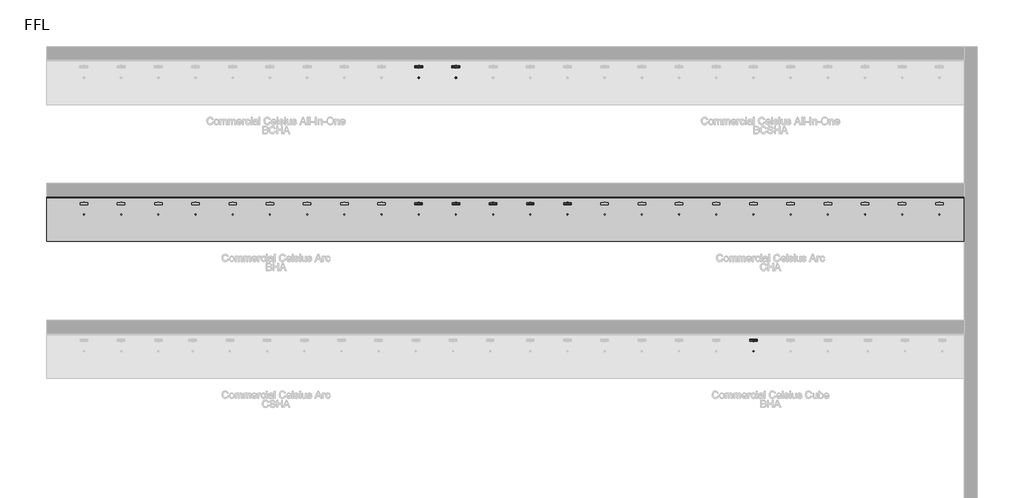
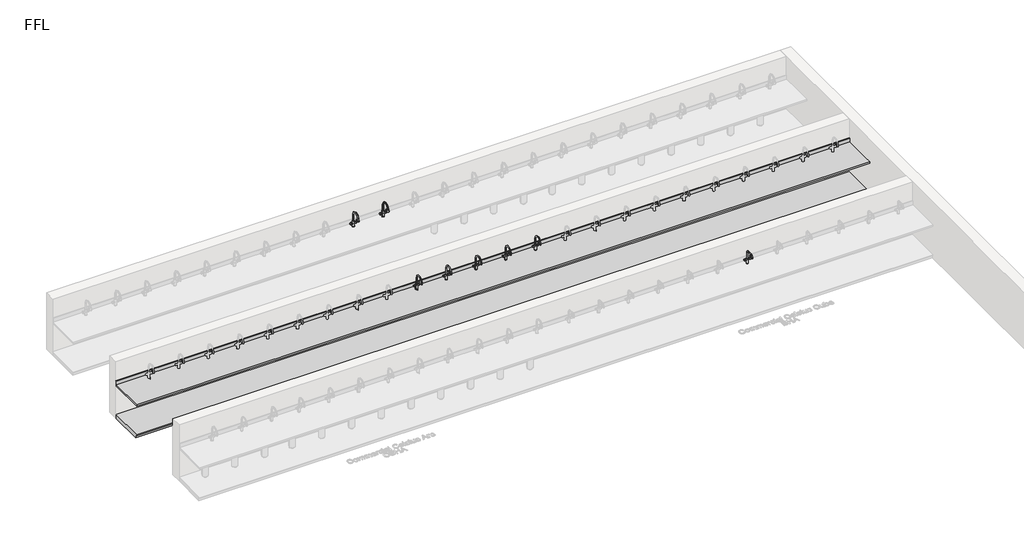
# One storey, part 3 of 10: 15 flow terminals, 2 furniture elements.
"""IFC4 building model written with IfcOpenShell, lengths in millimetres."""

from ifc_helpers import new_model, si_unit, frame, origin, place, context, project, spatial, polyline, circle_curve, transform, mapped, element, save
from ifc_brep_helpers import plane_surface, revolved_surface, advanced_brep
from components import flow_terminal_1fd3c137, bright_chrome_d5fbbf34, bright_chrome_ca6152f3, bright_chrome_d1e259f6, generic_plinth_900mm_f287d53f

model = new_model("IFC4")

# Units and contexts
model_context = context("Model", 3, world=origin())
ifc_project = project(units=[si_unit("LENGTHUNIT", "METRE", prefix="MILLI")], contexts=[model_context])

# Site, building, storey
site = spatial("IfcSite", under=ifc_project)
building = spatial("IfcBuilding", under=site)
storey = spatial("IfcBuildingStorey", under=building, Name="FFL", Elevation=0.0)

# Flow terminals
placement = place(None, origin())
flow_terminal_shape = flow_terminal_1fd3c137(model_context)
element("IfcFlowTerminal", 1, ObjectType="z_PlumFixt_Zenith_Booster : Booster", at=placement, inside=storey, context=model_context, shape_type="MappedRepresentation", body=[
    mapped(flow_terminal_shape, transform((533.2647071, 7900.2393304, 498.0), x_axis=(1.0, 0.0, 0.0), y_axis=(0.0, 1.0, 0.0), z_axis=(0.0, 0.0, 1.0))),
])
element("IfcFlowTerminal", 2, ObjectType="z_PlumFixt_Zenith_Booster : Booster", at=placement, inside=storey, context=model_context, shape_type="MappedRepresentation", body=[
    mapped(flow_terminal_shape, transform((1283.2647071, 7900.2393304, 498.0), x_axis=(1.0, 0.0, 0.0), y_axis=(0.0, 1.0, 0.0), z_axis=(0.0, 0.0, 1.0))),
])
element("IfcFlowTerminal", 3, ObjectType="z_PlumFixt_Zenith_Booster : Booster", at=placement, inside=storey, context=model_context, shape_type="MappedRepresentation", body=[
    mapped(flow_terminal_shape, transform((3532.7647071, 5140.2393304, 498.0), x_axis=(1.0, 0.0, 0.0), y_axis=(0.0, 1.0, 0.0), z_axis=(0.0, 0.0, 1.0))),
])
element("IfcFlowTerminal", 4, ObjectType="z_PlumFixt_Zenith_Booster : Booster", at=placement, inside=storey, context=model_context, shape_type="MappedRepresentation", body=[
    mapped(flow_terminal_shape, transform((2782.7647071, 5140.2393304, 498.0), x_axis=(1.0, 0.0, 0.0), y_axis=(0.0, 1.0, 0.0), z_axis=(0.0, 0.0, 1.0))),
])
element("IfcFlowTerminal", 5, ObjectType="z_PlumFixt_Zenith_Booster : Booster", at=placement, inside=storey, context=model_context, shape_type="MappedRepresentation", body=[
    mapped(flow_terminal_shape, transform((533.2647071, 5140.2393304, 498.0), x_axis=(1.0, 0.0, 0.0), y_axis=(0.0, 1.0, 0.0), z_axis=(0.0, 0.0, 1.0))),
])
element("IfcFlowTerminal", 6, ObjectType="z_PlumFixt_Zenith_Booster : Booster", at=placement, inside=storey, context=model_context, shape_type="MappedRepresentation", body=[
    mapped(flow_terminal_shape, transform((1283.2647071, 5140.2393304, 498.0), x_axis=(1.0, 0.0, 0.0), y_axis=(0.0, 1.0, 0.0), z_axis=(0.0, 0.0, 1.0))),
])
element("IfcFlowTerminal", 7, ObjectType="z_PlumFixt_Zenith_Booster : Booster", at=placement, inside=storey, context=model_context, shape_type="MappedRepresentation", body=[
    mapped(flow_terminal_shape, transform((2033.2647071, 5140.2393304, 498.0), x_axis=(1.0, 0.0, 0.0), y_axis=(0.0, 1.0, 0.0), z_axis=(0.0, 0.0, 1.0))),
])
bright_chrome_shape = bright_chrome_d5fbbf34(model_context)
element("IfcFlowTerminal", 8, ObjectType="z_PlumFixt_Zenith_Celsius Cube : Gold", at=placement, inside=storey, context=model_context, shape_type="MappedRepresentation", body=[
    mapped(bright_chrome_shape, transform((7282.2647071, 2104.4893304, 900.0), x_axis=(1.0, 0.0, 0.0), y_axis=(0.0, 1.0, 0.0), z_axis=(0.0, 0.0, 1.0))),
])
bright_chrome_2_shape = bright_chrome_ca6152f3(model_context)
element("IfcFlowTerminal", 9, ObjectType="z_PlumFixt_Zenith_Celsius Arc : Nickel", at=placement, inside=storey, context=model_context, shape_type="MappedRepresentation", body=[
    mapped(bright_chrome_2_shape, transform((533.2647071, 4864.4893304, 900.0), x_axis=(1.0, 0.0, 0.0), y_axis=(0.0, 1.0, 0.0), z_axis=(0.0, 0.0, 1.0))),
])
bright_chrome_3_shape = bright_chrome_d1e259f6(model_context)
element("IfcFlowTerminal", 10, ObjectType="z_PlumFixt_Zenith_Celsius All-In-One : Nickel", at=placement, inside=storey, context=model_context, shape_type="MappedRepresentation", body=[
    mapped(bright_chrome_3_shape, transform((533.2647071, 7637.5393304, 900.0), x_axis=(1.0, 0.0, 0.0), y_axis=(0.0, 1.0, 0.0), z_axis=(0.0, 0.0, 1.0))),
])
element("IfcFlowTerminal", 11, ObjectType="z_PlumFixt_Zenith_Celsius Arc : Platinum", at=placement, inside=storey, context=model_context, shape_type="MappedRepresentation", body=[
    mapped(bright_chrome_2_shape, transform((3532.7647071, 4864.4893304, 900.0), x_axis=(1.0, 0.0, 0.0), y_axis=(0.0, 1.0, 0.0), z_axis=(0.0, 0.0, 1.0))),
])
element("IfcFlowTerminal", 12, ObjectType="z_PlumFixt_Zenith_Celsius Arc : Platinum", at=placement, inside=storey, context=model_context, shape_type="MappedRepresentation", body=[
    mapped(bright_chrome_2_shape, transform((1283.2647071, 4864.4893304, 900.0), x_axis=(1.0, 0.0, 0.0), y_axis=(0.0, 1.0, 0.0), z_axis=(0.0, 0.0, 1.0))),
])
element("IfcFlowTerminal", 13, ObjectType="z_PlumFixt_Zenith_Celsius All-In-One : Platinum", at=placement, inside=storey, context=model_context, shape_type="MappedRepresentation", body=[
    mapped(bright_chrome_3_shape, transform((1283.2647071, 7637.5393304, 900.0), x_axis=(1.0, 0.0, 0.0), y_axis=(0.0, 1.0, 0.0), z_axis=(0.0, 0.0, 1.0))),
])
element("IfcFlowTerminal", 14, ObjectType="z_PlumFixt_Zenith_Celsius Arc : Rose Gold", at=placement, inside=storey, context=model_context, shape_type="MappedRepresentation", body=[
    mapped(bright_chrome_2_shape, transform((2782.7647071, 4864.4893304, 900.0), x_axis=(1.0, 0.0, 0.0), y_axis=(0.0, 1.0, 0.0), z_axis=(0.0, 0.0, 1.0))),
])
element("IfcFlowTerminal", 15, ObjectType="z_PlumFixt_Zenith_Celsius Arc : Rose Gold", at=placement, inside=storey, context=model_context, shape_type="MappedRepresentation", body=[
    mapped(bright_chrome_2_shape, transform((2033.2647071, 4864.4893304, 900.0), x_axis=(1.0, 0.0, 0.0), y_axis=(0.0, 1.0, 0.0), z_axis=(0.0, 0.0, 1.0))),
])

# Furniture
element("IfcFurniture", 16, ObjectType="Counter Top : 900mm Depth", at=placement, inside=storey, context=model_context, shape_type="AdvancedBrep", body=[
    advanced_brep(
    [(-6969.7352929, 4188.2393304, 900.0), (11530.2647071, 4188.2393304, 900.0), (11530.2647071, 5069.1893304, 900.0), (-6969.7352929, 5069.1893304, 900.0), (2759.2647071, 4953.2393304, 900.0), (2808.2647071, 4953.2393304, 900.0), (4259.2647071, 4953.2393304, 900.0), (4308.2647071, 4953.2393304, 900.0), (5009.2647071, 4953.2393304, 900.0), (5058.2647071, 4953.2393304, 900.0), (5758.7647071, 4953.2393304, 900.0), (5807.7647071, 4953.2393304, 900.0), (6508.7647071, 4953.2393304, 900.0), (6557.7647071, 4953.2393304, 900.0), (7258.7647071, 4953.2393304, 900.0), (7307.7647071, 4953.2393304, 900.0), (8008.7647071, 4953.2393304, 900.0), (8057.7647071, 4953.2393304, 900.0), (8758.7647071, 4953.2393304, 900.0), (8807.7647071, 4953.2393304, 900.0), (9508.7647071, 4953.2393304, 900.0), (9557.7647071, 4953.2393304, 900.0), (10258.7647071, 4953.2393304, 900.0), (10307.7647071, 4953.2393304, 900.0), (11008.7647071, 4953.2393304, 900.0), (11057.7647071, 4953.2393304, 900.0), (-6240.2352929, 4953.2393304, 900.0), (-6191.2352929, 4953.2393304, 900.0), (-5490.2352929, 4953.2393304, 900.0), (-5441.2352929, 4953.2393304, 900.0), (-4740.2352929, 4953.2393304, 900.0), (-4691.2352929, 4953.2393304, 900.0), (-3990.2352929, 4953.2393304, 900.0), (-3941.2352929, 4953.2393304, 900.0), (-3240.2352929, 4953.2393304, 900.0), (-3191.2352929, 4953.2393304, 900.0), (-2490.2352929, 4953.2393304, 900.0), (-2441.2352929, 4953.2393304, 900.0), (-1740.2352929, 4953.2393304, 900.0), (-1691.2352929, 4953.2393304, 900.0), (-990.2352929, 4953.2393304, 900.0), (-941.2352929, 4953.2393304, 900.0), (-240.2352929, 4953.2393304, 900.0), (-191.2352929, 4953.2393304, 900.0), (509.7647071, 4953.2393304, 900.0), (558.7647071, 4953.2393304, 900.0), (1259.7647071, 4953.2393304, 900.0), (1308.7647071, 4953.2393304, 900.0), (2009.7647071, 4953.2393304, 900.0), (2058.7647071, 4953.2393304, 900.0), (3509.2647071, 4953.2393304, 900.0), (3558.2647071, 4953.2393304, 900.0), (11530.2647071, 5088.2393304, 860.0), (11530.2647071, 4188.2393304, 860.0), (-6969.7352929, 4188.2393304, 860.0), (-6969.7352929, 5088.2393304, 860.0), (2808.2647071, 4953.2393304, 860.0), (2759.2647071, 4953.2393304, 860.0), (4308.2647071, 4953.2393304, 860.0), (4259.2647071, 4953.2393304, 860.0), (5058.2647071, 4953.2393304, 860.0), (5009.2647071, 4953.2393304, 860.0), (5807.7647071, 4953.2393304, 860.0), (5758.7647071, 4953.2393304, 860.0), (6557.7647071, 4953.2393304, 860.0), (6508.7647071, 4953.2393304, 860.0), (7307.7647071, 4953.2393304, 860.0), (7258.7647071, 4953.2393304, 860.0), (8057.7647071, 4953.2393304, 860.0), (8008.7647071, 4953.2393304, 860.0), (8807.7647071, 4953.2393304, 860.0), (8758.7647071, 4953.2393304, 860.0), (9557.7647071, 4953.2393304, 860.0), (9508.7647071, 4953.2393304, 860.0), (10307.7647071, 4953.2393304, 860.0), (10258.7647071, 4953.2393304, 860.0), (11057.7647071, 4953.2393304, 860.0), (11008.7647071, 4953.2393304, 860.0), (-6191.2352929, 4953.2393304, 860.0), (-6240.2352929, 4953.2393304, 860.0), (-5441.2352929, 4953.2393304, 860.0), (-5490.2352929, 4953.2393304, 860.0), (-4691.2352929, 4953.2393304, 860.0), (-4740.2352929, 4953.2393304, 860.0), (-3941.2352929, 4953.2393304, 860.0), (-3990.2352929, 4953.2393304, 860.0), (-3191.2352929, 4953.2393304, 860.0), (-3240.2352929, 4953.2393304, 860.0), (-2441.2352929, 4953.2393304, 860.0), (-2490.2352929, 4953.2393304, 860.0), (-1691.2352929, 4953.2393304, 860.0), (-1740.2352929, 4953.2393304, 860.0), (-941.2352929, 4953.2393304, 860.0), (-990.2352929, 4953.2393304, 860.0), (-191.2352929, 4953.2393304, 860.0), (-240.2352929, 4953.2393304, 860.0), (558.7647071, 4953.2393304, 860.0), (509.7647071, 4953.2393304, 860.0), (1308.7647071, 4953.2393304, 860.0), (1259.7647071, 4953.2393304, 860.0), (2058.7647071, 4953.2393304, 860.0), (2009.7647071, 4953.2393304, 860.0), (3558.2647071, 4953.2393304, 860.0), (3509.2647071, 4953.2393304, 860.0), (-6969.7352929, 5088.2393304, 1001.6), (11530.2647071, 5088.2393304, 1001.6), (-6969.7352929, 5069.1893304, 1001.6), (11530.2647071, 5069.1893304, 1001.6)],
    [
        (0, 1),
        (1, 2),
        (2, 3),
        (3, 0),
        (4, 5, circle_curve(frame((2783.7647071, 4953.2393304, 900.0), z_axis=(0.0, 0.0, -1.0), x_axis=(-1.0, 0.0, 0.0)), 24.5)),
        (5, 4, circle_curve(frame((2783.7647071, 4953.2393304, 900.0), z_axis=(0.0, 0.0, -1.0), x_axis=(-1.0, 0.0, 0.0)), 24.5)),
        (6, 7, circle_curve(frame((4283.7647071, 4953.2393304, 900.0), z_axis=(0.0, 0.0, -1.0), x_axis=(-1.0, 0.0, 0.0)), 24.5)),
        (7, 6, circle_curve(frame((4283.7647071, 4953.2393304, 900.0), z_axis=(0.0, 0.0, -1.0), x_axis=(-1.0, 0.0, 0.0)), 24.5)),
        (8, 9, circle_curve(frame((5033.7647071, 4953.2393304, 900.0), z_axis=(0.0, 0.0, -1.0), x_axis=(-1.0, 0.0, 0.0)), 24.5)),
        (9, 8, circle_curve(frame((5033.7647071, 4953.2393304, 900.0), z_axis=(0.0, 0.0, -1.0), x_axis=(-1.0, 0.0, 0.0)), 24.5)),
        (10, 11, circle_curve(frame((5783.2647071, 4953.2393304, 900.0), z_axis=(0.0, 0.0, -1.0), x_axis=(-1.0, 0.0, 0.0)), 24.5)),
        (11, 10, circle_curve(frame((5783.2647071, 4953.2393304, 900.0), z_axis=(0.0, 0.0, -1.0), x_axis=(-1.0, 0.0, 0.0)), 24.5)),
        (12, 13, circle_curve(frame((6533.2647071, 4953.2393304, 900.0), z_axis=(0.0, 0.0, -1.0), x_axis=(-1.0, 0.0, 0.0)), 24.5)),
        (13, 12, circle_curve(frame((6533.2647071, 4953.2393304, 900.0), z_axis=(0.0, 0.0, -1.0), x_axis=(-1.0, 0.0, 0.0)), 24.5)),
        (14, 15, circle_curve(frame((7283.2647071, 4953.2393304, 900.0), z_axis=(0.0, 0.0, -1.0), x_axis=(-1.0, 0.0, 0.0)), 24.5)),
        (15, 14, circle_curve(frame((7283.2647071, 4953.2393304, 900.0), z_axis=(0.0, 0.0, -1.0), x_axis=(-1.0, 0.0, 0.0)), 24.5)),
        (16, 17, circle_curve(frame((8033.2647071, 4953.2393304, 900.0), z_axis=(0.0, 0.0, -1.0), x_axis=(-1.0, 0.0, 0.0)), 24.5)),
        (17, 16, circle_curve(frame((8033.2647071, 4953.2393304, 900.0), z_axis=(0.0, 0.0, -1.0), x_axis=(-1.0, 0.0, 0.0)), 24.5)),
        (18, 19, circle_curve(frame((8783.2647071, 4953.2393304, 900.0), z_axis=(0.0, 0.0, -1.0), x_axis=(-1.0, 0.0, 0.0)), 24.5)),
        (19, 18, circle_curve(frame((8783.2647071, 4953.2393304, 900.0), z_axis=(0.0, 0.0, -1.0), x_axis=(-1.0, 0.0, 0.0)), 24.5)),
        (20, 21, circle_curve(frame((9533.2647071, 4953.2393304, 900.0), z_axis=(0.0, 0.0, -1.0), x_axis=(-1.0, 0.0, 0.0)), 24.5)),
        (21, 20, circle_curve(frame((9533.2647071, 4953.2393304, 900.0), z_axis=(0.0, 0.0, -1.0), x_axis=(-1.0, 0.0, 0.0)), 24.5)),
        (22, 23, circle_curve(frame((10283.2647071, 4953.2393304, 900.0), z_axis=(0.0, 0.0, -1.0), x_axis=(-1.0, 0.0, 0.0)), 24.5)),
        (23, 22, circle_curve(frame((10283.2647071, 4953.2393304, 900.0), z_axis=(0.0, 0.0, -1.0), x_axis=(-1.0, 0.0, 0.0)), 24.5)),
        (24, 25, circle_curve(frame((11033.2647071, 4953.2393304, 900.0), z_axis=(0.0, 0.0, -1.0), x_axis=(-1.0, 0.0, 0.0)), 24.5)),
        (25, 24, circle_curve(frame((11033.2647071, 4953.2393304, 900.0), z_axis=(0.0, 0.0, -1.0), x_axis=(-1.0, 0.0, 0.0)), 24.5)),
        (26, 27, circle_curve(frame((-6215.7352929, 4953.2393304, 900.0), z_axis=(0.0, 0.0, -1.0), x_axis=(-1.0, 0.0, 0.0)), 24.5)),
        (27, 26, circle_curve(frame((-6215.7352929, 4953.2393304, 900.0), z_axis=(0.0, 0.0, -1.0), x_axis=(-1.0, 0.0, 0.0)), 24.5)),
        (28, 29, circle_curve(frame((-5465.7352929, 4953.2393304, 900.0), z_axis=(0.0, 0.0, -1.0), x_axis=(-1.0, 0.0, 0.0)), 24.5)),
        (29, 28, circle_curve(frame((-5465.7352929, 4953.2393304, 900.0), z_axis=(0.0, 0.0, -1.0), x_axis=(-1.0, 0.0, 0.0)), 24.5)),
        (30, 31, circle_curve(frame((-4715.7352929, 4953.2393304, 900.0), z_axis=(0.0, 0.0, -1.0), x_axis=(-1.0, 0.0, 0.0)), 24.5)),
        (31, 30, circle_curve(frame((-4715.7352929, 4953.2393304, 900.0), z_axis=(0.0, 0.0, -1.0), x_axis=(-1.0, 0.0, 0.0)), 24.5)),
        (32, 33, circle_curve(frame((-3965.7352929, 4953.2393304, 900.0), z_axis=(0.0, 0.0, -1.0), x_axis=(-1.0, 0.0, 0.0)), 24.5)),
        (33, 32, circle_curve(frame((-3965.7352929, 4953.2393304, 900.0), z_axis=(0.0, 0.0, -1.0), x_axis=(-1.0, 0.0, 0.0)), 24.5)),
        (34, 35, circle_curve(frame((-3215.7352929, 4953.2393304, 900.0), z_axis=(0.0, 0.0, -1.0), x_axis=(-1.0, 0.0, 0.0)), 24.5)),
        (35, 34, circle_curve(frame((-3215.7352929, 4953.2393304, 900.0), z_axis=(0.0, 0.0, -1.0), x_axis=(-1.0, 0.0, 0.0)), 24.5)),
        (36, 37, circle_curve(frame((-2465.7352929, 4953.2393304, 900.0), z_axis=(0.0, 0.0, -1.0), x_axis=(-1.0, 0.0, 0.0)), 24.5)),
        (37, 36, circle_curve(frame((-2465.7352929, 4953.2393304, 900.0), z_axis=(0.0, 0.0, -1.0), x_axis=(-1.0, 0.0, 0.0)), 24.5)),
        (38, 39, circle_curve(frame((-1715.7352929, 4953.2393304, 900.0), z_axis=(0.0, 0.0, -1.0), x_axis=(-1.0, 0.0, 0.0)), 24.5)),
        (39, 38, circle_curve(frame((-1715.7352929, 4953.2393304, 900.0), z_axis=(0.0, 0.0, -1.0), x_axis=(-1.0, 0.0, 0.0)), 24.5)),
        (40, 41, circle_curve(frame((-965.7352929, 4953.2393304, 900.0), z_axis=(0.0, 0.0, -1.0), x_axis=(-1.0, 0.0, 0.0)), 24.5)),
        (41, 40, circle_curve(frame((-965.7352929, 4953.2393304, 900.0), z_axis=(0.0, 0.0, -1.0), x_axis=(-1.0, 0.0, 0.0)), 24.5)),
        (42, 43, circle_curve(frame((-215.7352929, 4953.2393304, 900.0), z_axis=(0.0, 0.0, -1.0), x_axis=(-1.0, 0.0, 0.0)), 24.5)),
        (43, 42, circle_curve(frame((-215.7352929, 4953.2393304, 900.0), z_axis=(0.0, 0.0, -1.0), x_axis=(-1.0, 0.0, 0.0)), 24.5)),
        (44, 45, circle_curve(frame((534.2647071, 4953.2393304, 900.0), z_axis=(0.0, 0.0, -1.0), x_axis=(-1.0, 0.0, 0.0)), 24.5)),
        (45, 44, circle_curve(frame((534.2647071, 4953.2393304, 900.0), z_axis=(0.0, 0.0, -1.0), x_axis=(-1.0, 0.0, 0.0)), 24.5)),
        (46, 47, circle_curve(frame((1284.2647071, 4953.2393304, 900.0), z_axis=(0.0, 0.0, -1.0), x_axis=(-1.0, 0.0, 0.0)), 24.5)),
        (47, 46, circle_curve(frame((1284.2647071, 4953.2393304, 900.0), z_axis=(0.0, 0.0, -1.0), x_axis=(-1.0, 0.0, 0.0)), 24.5)),
        (48, 49, circle_curve(frame((2034.2647071, 4953.2393304, 900.0), z_axis=(0.0, 0.0, -1.0), x_axis=(-1.0, 0.0, 0.0)), 24.5)),
        (49, 48, circle_curve(frame((2034.2647071, 4953.2393304, 900.0), z_axis=(0.0, 0.0, -1.0), x_axis=(-1.0, 0.0, 0.0)), 24.5)),
        (50, 51, circle_curve(frame((3533.7647071, 4953.2393304, 900.0), z_axis=(0.0, 0.0, -1.0), x_axis=(-1.0, 0.0, 0.0)), 24.5)),
        (51, 50, circle_curve(frame((3533.7647071, 4953.2393304, 900.0), z_axis=(0.0, 0.0, -1.0), x_axis=(-1.0, 0.0, 0.0)), 24.5)),
        (52, 53),
        (53, 54),
        (54, 55),
        (55, 52),
        (56, 57, circle_curve(frame((2783.7647071, 4953.2393304, 860.0), z_axis=(0.0, 0.0, 1.0), x_axis=(-1.0, 0.0, 0.0)), 24.5)),
        (57, 56, circle_curve(frame((2783.7647071, 4953.2393304, 860.0), z_axis=(0.0, 0.0, 1.0), x_axis=(-1.0, 0.0, 0.0)), 24.5)),
        (58, 59, circle_curve(frame((4283.7647071, 4953.2393304, 860.0), z_axis=(0.0, 0.0, 1.0), x_axis=(-1.0, 0.0, 0.0)), 24.5)),
        (59, 58, circle_curve(frame((4283.7647071, 4953.2393304, 860.0), z_axis=(0.0, 0.0, 1.0), x_axis=(-1.0, 0.0, 0.0)), 24.5)),
        (60, 61, circle_curve(frame((5033.7647071, 4953.2393304, 860.0), z_axis=(0.0, 0.0, 1.0), x_axis=(-1.0, 0.0, 0.0)), 24.5)),
        (61, 60, circle_curve(frame((5033.7647071, 4953.2393304, 860.0), z_axis=(0.0, 0.0, 1.0), x_axis=(-1.0, 0.0, 0.0)), 24.5)),
        (62, 63, circle_curve(frame((5783.2647071, 4953.2393304, 860.0), z_axis=(0.0, 0.0, 1.0), x_axis=(-1.0, 0.0, 0.0)), 24.5)),
        (63, 62, circle_curve(frame((5783.2647071, 4953.2393304, 860.0), z_axis=(0.0, 0.0, 1.0), x_axis=(-1.0, 0.0, 0.0)), 24.5)),
        (64, 65, circle_curve(frame((6533.2647071, 4953.2393304, 860.0), z_axis=(0.0, 0.0, 1.0), x_axis=(-1.0, 0.0, 0.0)), 24.5)),
        (65, 64, circle_curve(frame((6533.2647071, 4953.2393304, 860.0), z_axis=(0.0, 0.0, 1.0), x_axis=(-1.0, 0.0, 0.0)), 24.5)),
        (66, 67, circle_curve(frame((7283.2647071, 4953.2393304, 860.0), z_axis=(0.0, 0.0, 1.0), x_axis=(-1.0, 0.0, 0.0)), 24.5)),
        (67, 66, circle_curve(frame((7283.2647071, 4953.2393304, 860.0), z_axis=(0.0, 0.0, 1.0), x_axis=(-1.0, 0.0, 0.0)), 24.5)),
        (68, 69, circle_curve(frame((8033.2647071, 4953.2393304, 860.0), z_axis=(0.0, 0.0, 1.0), x_axis=(-1.0, 0.0, 0.0)), 24.5)),
        (69, 68, circle_curve(frame((8033.2647071, 4953.2393304, 860.0), z_axis=(0.0, 0.0, 1.0), x_axis=(-1.0, 0.0, 0.0)), 24.5)),
        (70, 71, circle_curve(frame((8783.2647071, 4953.2393304, 860.0), z_axis=(0.0, 0.0, 1.0), x_axis=(-1.0, 0.0, 0.0)), 24.5)),
        (71, 70, circle_curve(frame((8783.2647071, 4953.2393304, 860.0), z_axis=(0.0, 0.0, 1.0), x_axis=(-1.0, 0.0, 0.0)), 24.5)),
        (72, 73, circle_curve(frame((9533.2647071, 4953.2393304, 860.0), z_axis=(0.0, 0.0, 1.0), x_axis=(-1.0, 0.0, 0.0)), 24.5)),
        (73, 72, circle_curve(frame((9533.2647071, 4953.2393304, 860.0), z_axis=(0.0, 0.0, 1.0), x_axis=(-1.0, 0.0, 0.0)), 24.5)),
        (74, 75, circle_curve(frame((10283.2647071, 4953.2393304, 860.0), z_axis=(0.0, 0.0, 1.0), x_axis=(-1.0, 0.0, 0.0)), 24.5)),
        (75, 74, circle_curve(frame((10283.2647071, 4953.2393304, 860.0), z_axis=(0.0, 0.0, 1.0), x_axis=(-1.0, 0.0, 0.0)), 24.5)),
        (76, 77, circle_curve(frame((11033.2647071, 4953.2393304, 860.0), z_axis=(0.0, 0.0, 1.0), x_axis=(-1.0, 0.0, 0.0)), 24.5)),
        (77, 76, circle_curve(frame((11033.2647071, 4953.2393304, 860.0), z_axis=(0.0, 0.0, 1.0), x_axis=(-1.0, 0.0, 0.0)), 24.5)),
        (78, 79, circle_curve(frame((-6215.7352929, 4953.2393304, 860.0), z_axis=(0.0, 0.0, 1.0), x_axis=(-1.0, 0.0, 0.0)), 24.5)),
        (79, 78, circle_curve(frame((-6215.7352929, 4953.2393304, 860.0), z_axis=(0.0, 0.0, 1.0), x_axis=(-1.0, 0.0, 0.0)), 24.5)),
        (80, 81, circle_curve(frame((-5465.7352929, 4953.2393304, 860.0), z_axis=(0.0, 0.0, 1.0), x_axis=(-1.0, 0.0, 0.0)), 24.5)),
        (81, 80, circle_curve(frame((-5465.7352929, 4953.2393304, 860.0), z_axis=(0.0, 0.0, 1.0), x_axis=(-1.0, 0.0, 0.0)), 24.5)),
        (82, 83, circle_curve(frame((-4715.7352929, 4953.2393304, 860.0), z_axis=(0.0, 0.0, 1.0), x_axis=(-1.0, 0.0, 0.0)), 24.5)),
        (83, 82, circle_curve(frame((-4715.7352929, 4953.2393304, 860.0), z_axis=(0.0, 0.0, 1.0), x_axis=(-1.0, 0.0, 0.0)), 24.5)),
        (84, 85, circle_curve(frame((-3965.7352929, 4953.2393304, 860.0), z_axis=(0.0, 0.0, 1.0), x_axis=(-1.0, 0.0, 0.0)), 24.5)),
        (85, 84, circle_curve(frame((-3965.7352929, 4953.2393304, 860.0), z_axis=(0.0, 0.0, 1.0), x_axis=(-1.0, 0.0, 0.0)), 24.5)),
        (86, 87, circle_curve(frame((-3215.7352929, 4953.2393304, 860.0), z_axis=(0.0, 0.0, 1.0), x_axis=(-1.0, 0.0, 0.0)), 24.5)),
        (87, 86, circle_curve(frame((-3215.7352929, 4953.2393304, 860.0), z_axis=(0.0, 0.0, 1.0), x_axis=(-1.0, 0.0, 0.0)), 24.5)),
        (88, 89, circle_curve(frame((-2465.7352929, 4953.2393304, 860.0), z_axis=(0.0, 0.0, 1.0), x_axis=(-1.0, 0.0, 0.0)), 24.5)),
        (89, 88, circle_curve(frame((-2465.7352929, 4953.2393304, 860.0), z_axis=(0.0, 0.0, 1.0), x_axis=(-1.0, 0.0, 0.0)), 24.5)),
        (90, 91, circle_curve(frame((-1715.7352929, 4953.2393304, 860.0), z_axis=(0.0, 0.0, 1.0), x_axis=(-1.0, 0.0, 0.0)), 24.5)),
        (91, 90, circle_curve(frame((-1715.7352929, 4953.2393304, 860.0), z_axis=(0.0, 0.0, 1.0), x_axis=(-1.0, 0.0, 0.0)), 24.5)),
        (92, 93, circle_curve(frame((-965.7352929, 4953.2393304, 860.0), z_axis=(0.0, 0.0, 1.0), x_axis=(-1.0, 0.0, 0.0)), 24.5)),
        (93, 92, circle_curve(frame((-965.7352929, 4953.2393304, 860.0), z_axis=(0.0, 0.0, 1.0), x_axis=(-1.0, 0.0, 0.0)), 24.5)),
        (94, 95, circle_curve(frame((-215.7352929, 4953.2393304, 860.0), z_axis=(0.0, 0.0, 1.0), x_axis=(-1.0, 0.0, 0.0)), 24.5)),
        (95, 94, circle_curve(frame((-215.7352929, 4953.2393304, 860.0), z_axis=(0.0, 0.0, 1.0), x_axis=(-1.0, 0.0, 0.0)), 24.5)),
        (96, 97, circle_curve(frame((534.2647071, 4953.2393304, 860.0), z_axis=(0.0, 0.0, 1.0), x_axis=(-1.0, 0.0, 0.0)), 24.5)),
        (97, 96, circle_curve(frame((534.2647071, 4953.2393304, 860.0), z_axis=(0.0, 0.0, 1.0), x_axis=(-1.0, 0.0, 0.0)), 24.5)),
        (98, 99, circle_curve(frame((1284.2647071, 4953.2393304, 860.0), z_axis=(0.0, 0.0, 1.0), x_axis=(-1.0, 0.0, 0.0)), 24.5)),
        (99, 98, circle_curve(frame((1284.2647071, 4953.2393304, 860.0), z_axis=(0.0, 0.0, 1.0), x_axis=(-1.0, 0.0, 0.0)), 24.5)),
        (100, 101, circle_curve(frame((2034.2647071, 4953.2393304, 860.0), z_axis=(0.0, 0.0, 1.0), x_axis=(-1.0, 0.0, 0.0)), 24.5)),
        (101, 100, circle_curve(frame((2034.2647071, 4953.2393304, 860.0), z_axis=(0.0, 0.0, 1.0), x_axis=(-1.0, 0.0, 0.0)), 24.5)),
        (102, 103, circle_curve(frame((3533.7647071, 4953.2393304, 860.0), z_axis=(0.0, 0.0, 1.0), x_axis=(-1.0, 0.0, 0.0)), 24.5)),
        (103, 102, circle_curve(frame((3533.7647071, 4953.2393304, 860.0), z_axis=(0.0, 0.0, 1.0), x_axis=(-1.0, 0.0, 0.0)), 24.5)),
        (55, 104),
        (104, 105),
        (105, 52),
        (3, 106),
        (106, 104),
        (54, 0),
        (53, 1),
        (105, 107),
        (107, 2),
        (106, 107),
        (56, 5),
        (4, 57),
        (58, 7),
        (6, 59),
        (60, 9),
        (8, 61),
        (62, 11),
        (10, 63),
        (64, 13),
        (12, 65),
        (66, 15),
        (14, 67),
        (68, 17),
        (16, 69),
        (70, 19),
        (18, 71),
        (72, 21),
        (20, 73),
        (74, 23),
        (22, 75),
        (76, 25),
        (24, 77),
        (78, 27),
        (26, 79),
        (80, 29),
        (28, 81),
        (82, 31),
        (30, 83),
        (84, 33),
        (32, 85),
        (86, 35),
        (34, 87),
        (88, 37),
        (36, 89),
        (90, 39),
        (38, 91),
        (92, 41),
        (40, 93),
        (94, 43),
        (42, 95),
        (96, 45),
        (44, 97),
        (98, 47),
        (46, 99),
        (100, 49),
        (48, 101),
        (102, 51),
        (50, 103),
    ],
    [
        plane_surface(frame((-6969.7352929, 5088.2393304, 900.0), z_axis=(0.0, 0.0, 1.0), x_axis=(-1.0, 0.0, 0.0))),
        plane_surface(frame((-6969.7352929, 5088.2393304, 860.0), z_axis=(0.0, 0.0, -1.0), x_axis=(1.0, 0.0, 0.0))),
        plane_surface(frame((11530.2647071, 5088.2393304, 900.0), z_axis=(0.0, 1.0, 0.0), x_axis=(0.0, 0.0, -1.0))),
        plane_surface(frame((-6969.7352929, 5088.2393304, 900.0), z_axis=(-1.0, 0.0, 0.0), x_axis=(0.0, 0.0, -1.0))),
        plane_surface(frame((-6969.7352929, 4188.2393304, 900.0), z_axis=(0.0, -1.0, 0.0), x_axis=(0.0, 0.0, -1.0))),
        plane_surface(frame((11530.2647071, 4188.2393304, 900.0), z_axis=(1.0, 0.0, 0.0), x_axis=(0.0, 0.0, -1.0))),
        plane_surface(frame((-6969.7352929, 5088.2393304, 1001.6), z_axis=(0.0, 0.0, 1.0), x_axis=(0.0, -1.0, 0.0))),
        plane_surface(frame((-6969.7352929, 5069.1893304, 1001.6), z_axis=(0.0, -1.0, 0.0), x_axis=(0.0, 0.0, -1.0))),
        revolved_surface(polyline([(2759.2647071, 4953.2393304, 900.0), (2759.2647071, 4953.2393304, 860.0)]), (2783.7647071, 4953.2393304, 850.0), (0.0, 0.0, 1.0)),
        revolved_surface(polyline([(4259.2647071, 4953.2393304, 900.0), (4259.2647071, 4953.2393304, 860.0)]), (4283.7647071, 4953.2393304, 850.0), (0.0, 0.0, 1.0)),
        revolved_surface(polyline([(5009.2647071, 4953.2393304, 900.0), (5009.2647071, 4953.2393304, 860.0)]), (5033.7647071, 4953.2393304, 850.0), (0.0, 0.0, 1.0)),
        revolved_surface(polyline([(5758.7647071, 4953.2393304, 900.0), (5758.7647071, 4953.2393304, 860.0)]), (5783.2647071, 4953.2393304, 850.0), (0.0, 0.0, 1.0)),
        revolved_surface(polyline([(6508.7647071, 4953.2393304, 900.0), (6508.7647071, 4953.2393304, 860.0)]), (6533.2647071, 4953.2393304, 850.0), (0.0, 0.0, 1.0)),
        revolved_surface(polyline([(7258.7647071, 4953.2393304, 900.0), (7258.7647071, 4953.2393304, 860.0)]), (7283.2647071, 4953.2393304, 850.0), (0.0, 0.0, 1.0)),
        revolved_surface(polyline([(8008.7647071, 4953.2393304, 900.0), (8008.7647071, 4953.2393304, 860.0)]), (8033.2647071, 4953.2393304, 850.0), (0.0, 0.0, 1.0)),
        revolved_surface(polyline([(8758.7647071, 4953.2393304, 900.0), (8758.7647071, 4953.2393304, 860.0)]), (8783.2647071, 4953.2393304, 850.0), (0.0, 0.0, 1.0)),
        revolved_surface(polyline([(9508.7647071, 4953.2393304, 900.0), (9508.7647071, 4953.2393304, 860.0)]), (9533.2647071, 4953.2393304, 850.0), (0.0, 0.0, 1.0)),
        revolved_surface(polyline([(10258.7647071, 4953.2393304, 900.0), (10258.7647071, 4953.2393304, 860.0)]), (10283.2647071, 4953.2393304, 850.0), (0.0, 0.0, 1.0)),
        revolved_surface(polyline([(11008.7647071, 4953.2393304, 900.0), (11008.7647071, 4953.2393304, 860.0)]), (11033.2647071, 4953.2393304, 850.0), (0.0, 0.0, 1.0)),
        revolved_surface(polyline([(-6240.2352929, 4953.2393304, 900.0), (-6240.2352929, 4953.2393304, 860.0)]), (-6215.7352929, 4953.2393304, 850.0), (0.0, 0.0, 1.0)),
        revolved_surface(polyline([(-5490.2352929, 4953.2393304, 900.0), (-5490.2352929, 4953.2393304, 860.0)]), (-5465.7352929, 4953.2393304, 850.0), (0.0, 0.0, 1.0)),
        revolved_surface(polyline([(-4740.2352929, 4953.2393304, 900.0), (-4740.2352929, 4953.2393304, 860.0)]), (-4715.7352929, 4953.2393304, 850.0), (0.0, 0.0, 1.0)),
        revolved_surface(polyline([(-3990.2352929, 4953.2393304, 900.0), (-3990.2352929, 4953.2393304, 860.0)]), (-3965.7352929, 4953.2393304, 850.0), (0.0, 0.0, 1.0)),
        revolved_surface(polyline([(-3240.2352929, 4953.2393304, 900.0), (-3240.2352929, 4953.2393304, 860.0)]), (-3215.7352929, 4953.2393304, 850.0), (0.0, 0.0, 1.0)),
        revolved_surface(polyline([(-2490.2352929, 4953.2393304, 900.0), (-2490.2352929, 4953.2393304, 860.0)]), (-2465.7352929, 4953.2393304, 850.0), (0.0, 0.0, 1.0)),
        revolved_surface(polyline([(-1740.2352929, 4953.2393304, 900.0), (-1740.2352929, 4953.2393304, 860.0)]), (-1715.7352929, 4953.2393304, 850.0), (0.0, 0.0, 1.0)),
        revolved_surface(polyline([(-990.2352929, 4953.2393304, 900.0), (-990.2352929, 4953.2393304, 860.0)]), (-965.7352929, 4953.2393304, 850.0), (0.0, 0.0, 1.0)),
        revolved_surface(polyline([(-240.2352929, 4953.2393304, 900.0), (-240.2352929, 4953.2393304, 860.0)]), (-215.7352929, 4953.2393304, 850.0), (0.0, 0.0, 1.0)),
        revolved_surface(polyline([(509.7647071, 4953.2393304, 900.0), (509.7647071, 4953.2393304, 860.0)]), (534.2647071, 4953.2393304, 850.0), (0.0, 0.0, 1.0)),
        revolved_surface(polyline([(1259.7647071, 4953.2393304, 900.0), (1259.7647071, 4953.2393304, 860.0)]), (1284.2647071, 4953.2393304, 850.0), (0.0, 0.0, 1.0)),
        revolved_surface(polyline([(2009.7647071, 4953.2393304, 900.0), (2009.7647071, 4953.2393304, 860.0)]), (2034.2647071, 4953.2393304, 850.0), (0.0, 0.0, 1.0)),
        revolved_surface(polyline([(3509.2647071, 4953.2393304, 900.0), (3509.2647071, 4953.2393304, 860.0)]), (3533.7647071, 4953.2393304, 850.0), (0.0, 0.0, 1.0)),
    ],
    [
        (0, [[1, 2, 3, 4], [5, 6], [7, 8], [9, 10], [11, 12], [13, 14], [15, 16], [17, 18], [19, 20], [21, 22], [23, 24], [25, 26], [27, 28], [29, 30], [31, 32], [33, 34], [35, 36], [37, 38], [39, 40], [41, 42], [43, 44], [45, 46], [47, 48], [49, 50], [51, 52]]),
        (1, [[53, 54, 55, 56], [57, 58], [59, 60], [61, 62], [63, 64], [65, 66], [67, 68], [69, 70], [71, 72], [73, 74], [75, 76], [77, 78], [79, 80], [81, 82], [83, 84], [85, 86], [87, 88], [89, 90], [91, 92], [93, 94], [95, 96], [97, 98], [99, 100], [101, 102], [103, 104]]),
        (2, [[-56, 105, 106, 107]]),
        (3, [[-4, 108, 109, -105, -55, 110]]),
        (4, [[-1, -110, -54, 111]]),
        (5, [[-2, -111, -53, -107, 112, 113]]),
        (6, [[-106, -109, 114, -112]]),
        (7, [[-3, -113, -114, -108]]),
        (8, [[115, -5, 116, -57]]),
        (8, [[-115, -58, -116, -6]]),
        (9, [[117, -7, 118, -59]]),
        (9, [[-117, -60, -118, -8]]),
        (10, [[119, -9, 120, -61]]),
        (10, [[-119, -62, -120, -10]]),
        (11, [[121, -11, 122, -63]]),
        (11, [[-121, -64, -122, -12]]),
        (12, [[123, -13, 124, -65]]),
        (12, [[-123, -66, -124, -14]]),
        (13, [[125, -15, 126, -67]]),
        (13, [[-125, -68, -126, -16]]),
        (14, [[127, -17, 128, -69]]),
        (14, [[-127, -70, -128, -18]]),
        (15, [[129, -19, 130, -71]]),
        (15, [[-129, -72, -130, -20]]),
        (16, [[131, -21, 132, -73]]),
        (16, [[-131, -74, -132, -22]]),
        (17, [[133, -23, 134, -75]]),
        (17, [[-133, -76, -134, -24]]),
        (18, [[135, -25, 136, -77]]),
        (18, [[-135, -78, -136, -26]]),
        (19, [[137, -27, 138, -79]]),
        (19, [[-137, -80, -138, -28]]),
        (20, [[139, -29, 140, -81]]),
        (20, [[-139, -82, -140, -30]]),
        (21, [[141, -31, 142, -83]]),
        (21, [[-141, -84, -142, -32]]),
        (22, [[143, -33, 144, -85]]),
        (22, [[-143, -86, -144, -34]]),
        (23, [[145, -35, 146, -87]]),
        (23, [[-145, -88, -146, -36]]),
        (24, [[147, -37, 148, -89]]),
        (24, [[-147, -90, -148, -38]]),
        (25, [[149, -39, 150, -91]]),
        (25, [[-149, -92, -150, -40]]),
        (26, [[151, -41, 152, -93]]),
        (26, [[-151, -94, -152, -42]]),
        (27, [[153, -43, 154, -95]]),
        (27, [[-153, -96, -154, -44]]),
        (28, [[155, -45, 156, -97]]),
        (28, [[-155, -98, -156, -46]]),
        (29, [[157, -47, 158, -99]]),
        (29, [[-157, -100, -158, -48]]),
        (30, [[159, -49, 160, -101]]),
        (30, [[-159, -102, -160, -50]]),
        (31, [[161, -51, 162, -103]]),
        (31, [[-161, -104, -162, -52]]),
    ],
),
])
generic_plinth_900mm_shape = generic_plinth_900mm_f287d53f(model_context)
element("IfcFurniture", 17, ObjectType="Generic Plinth : 900mm", at=placement, inside=storey, context=model_context, shape_type="MappedRepresentation", body=[
    mapped(generic_plinth_900mm_shape, transform((2261.5270022, 5088.2393304, 0.0), x_axis=(1.0, 0.0, 0.0), y_axis=(0.0, 1.0, 0.0), z_axis=(0.0, 0.0, 1.0))),
])

save(model, "model.ifc")
